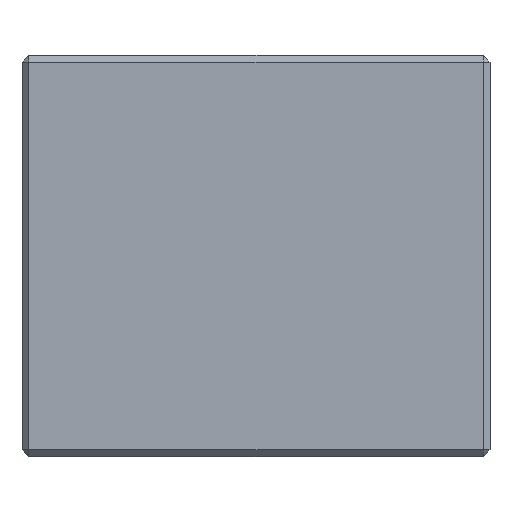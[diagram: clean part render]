
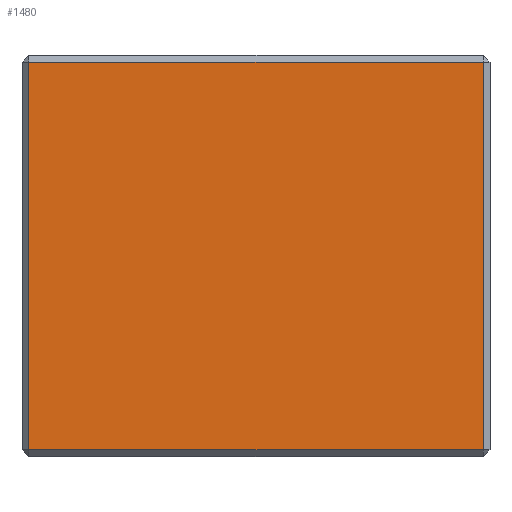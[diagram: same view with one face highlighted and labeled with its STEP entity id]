
A CAD part, left-side view. The second image highlights one B-rep face of the part: STEP entity #1480.
In plain terms, the highlighted planar face has unit normal (-1, 0, 0).
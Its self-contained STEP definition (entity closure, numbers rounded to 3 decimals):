
#56 = CARTESIAN_POINT ( 'NONE',  ( -15., -35., 15. ) ) ;
#70 = AXIS2_PLACEMENT_3D ( 'NONE', #56, #1383, #1058 ) ;
#109 = EDGE_CURVE ( 'NONE', #2090, #1954, #916, .T. ) ;
#138 = VECTOR ( 'NONE', #1561, 1000. ) ;
#224 = CARTESIAN_POINT ( 'NONE',  ( -15., -35., -14.5 ) ) ;
#344 = VERTEX_POINT ( 'NONE', #1093 ) ;
#658 = DIRECTION ( 'NONE',  ( 0., 0., 1. ) ) ;
#721 = LINE ( 'NONE', #948, #1219 ) ;
#723 = CARTESIAN_POINT ( 'NONE',  ( -15., -0.5, 15. ) ) ;
#769 = CARTESIAN_POINT ( 'NONE',  ( -15., -34.5, 14.5 ) ) ;
#856 = VECTOR ( 'NONE', #658, 1000. ) ;
#873 = DIRECTION ( 'NONE',  ( 0., -1., 0. ) ) ;
#899 = EDGE_CURVE ( 'NONE', #1954, #344, #721, .T. ) ;
#916 = LINE ( 'NONE', #1667, #856 ) ;
#948 = CARTESIAN_POINT ( 'NONE',  ( -15., -35., 14.5 ) ) ;
#1011 = LINE ( 'NONE', #224, #1998 ) ;
#1036 = LINE ( 'NONE', #723, #138 ) ;
#1058 = DIRECTION ( 'NONE',  ( 0., 0., 1. ) ) ;
#1093 = CARTESIAN_POINT ( 'NONE',  ( -15., -0.5, 14.5 ) ) ;
#1196 = VERTEX_POINT ( 'NONE', #1919 ) ;
#1219 = VECTOR ( 'NONE', #1977, 1000. ) ;
#1233 = ORIENTED_EDGE ( 'NONE', *, *, #899, .T. ) ;
#1383 = DIRECTION ( 'NONE',  ( -1., 0., 0. ) ) ;
#1418 = ORIENTED_EDGE ( 'NONE', *, *, #2175, .T. ) ;
#1480 = ADVANCED_FACE ( 'NONE', ( #1690 ), #1576, .T. ) ;
#1561 = DIRECTION ( 'NONE',  ( 0., 0., -1. ) ) ;
#1576 = PLANE ( 'NONE',  #70 ) ;
#1655 = ORIENTED_EDGE ( 'NONE', *, *, #2163, .T. ) ;
#1667 = CARTESIAN_POINT ( 'NONE',  ( -15., -34.5, 15. ) ) ;
#1690 = FACE_OUTER_BOUND ( 'NONE', #2023, .T. ) ;
#1767 = ORIENTED_EDGE ( 'NONE', *, *, #109, .T. ) ;
#1871 = CARTESIAN_POINT ( 'NONE',  ( -15., -34.5, -14.5 ) ) ;
#1919 = CARTESIAN_POINT ( 'NONE',  ( -15., -0.5, -14.5 ) ) ;
#1954 = VERTEX_POINT ( 'NONE', #769 ) ;
#1977 = DIRECTION ( 'NONE',  ( 0., 1., 0. ) ) ;
#1998 = VECTOR ( 'NONE', #873, 1000. ) ;
#2023 = EDGE_LOOP ( 'NONE', ( #1655, #1767, #1233, #1418 ) ) ;
#2090 = VERTEX_POINT ( 'NONE', #1871 ) ;
#2163 = EDGE_CURVE ( 'NONE', #1196, #2090, #1011, .T. ) ;
#2175 = EDGE_CURVE ( 'NONE', #344, #1196, #1036, .T. ) ;
